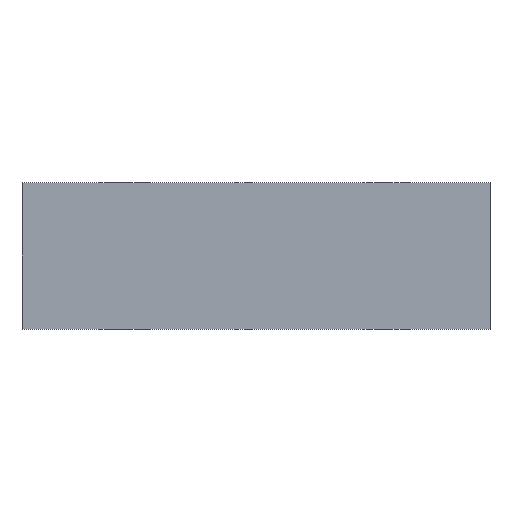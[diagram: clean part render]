
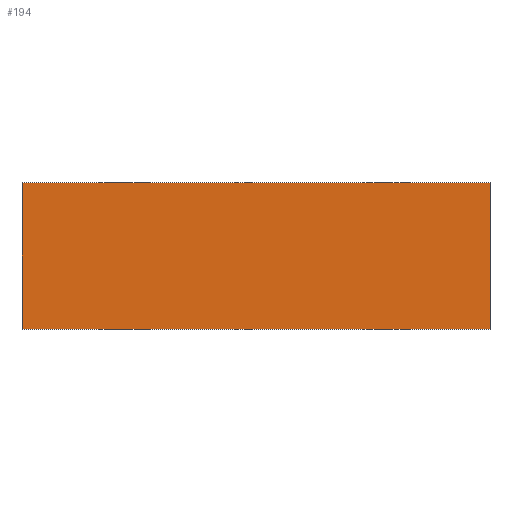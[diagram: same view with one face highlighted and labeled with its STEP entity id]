
A CAD part, front view. The second image highlights one B-rep face of the part: STEP entity #194.
In plain terms, the highlighted planar face has unit normal (0, -1, 0).
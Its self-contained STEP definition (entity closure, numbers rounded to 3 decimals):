
#21 = EDGE_CURVE('',#22,#24,#26,.T.);
#22 = VERTEX_POINT('',#23);
#23 = CARTESIAN_POINT('',(-16.,-15.,0.));
#24 = VERTEX_POINT('',#25);
#25 = CARTESIAN_POINT('',(-16.,-15.,10.));
#26 = SURFACE_CURVE('',#27,(#31,#43),.PCURVE_S1.);
#27 = LINE('',#28,#29);
#28 = CARTESIAN_POINT('',(-16.,-15.,-10.));
#29 = VECTOR('',#30,1.);
#30 = DIRECTION('',(0.,0.,1.));
#31 = PCURVE('',#32,#37);
#32 = PLANE('',#33);
#33 = AXIS2_PLACEMENT_3D('',#34,#35,#36);
#34 = CARTESIAN_POINT('',(-16.,-15.,-10.));
#35 = DIRECTION('',(1.,0.,0.));
#36 = DIRECTION('',(0.,0.,1.));
#37 = DEFINITIONAL_REPRESENTATION('',(#38),#42);
#38 = LINE('',#39,#40);
#39 = CARTESIAN_POINT('',(0.,0.));
#40 = VECTOR('',#41,1.);
#41 = DIRECTION('',(1.,0.));
#42 = ( GEOMETRIC_REPRESENTATION_CONTEXT(2) 
PARAMETRIC_REPRESENTATION_CONTEXT() REPRESENTATION_CONTEXT('2D SPACE',''
  ) );
#43 = PCURVE('',#44,#49);
#44 = PLANE('',#45);
#45 = AXIS2_PLACEMENT_3D('',#46,#47,#48);
#46 = CARTESIAN_POINT('',(-16.,-15.,-10.));
#47 = DIRECTION('',(0.,1.,0.));
#48 = DIRECTION('',(0.,0.,1.));
#49 = DEFINITIONAL_REPRESENTATION('',(#50),#54);
#50 = LINE('',#51,#52);
#51 = CARTESIAN_POINT('',(0.,0.));
#52 = VECTOR('',#53,1.);
#53 = DIRECTION('',(1.,0.));
#54 = ( GEOMETRIC_REPRESENTATION_CONTEXT(2) 
PARAMETRIC_REPRESENTATION_CONTEXT() REPRESENTATION_CONTEXT('2D SPACE',''
  ) );
#71 = PLANE('',#72);
#72 = AXIS2_PLACEMENT_3D('',#73,#74,#75);
#73 = CARTESIAN_POINT('',(-20.,-20.,0.));
#74 = DIRECTION('',(0.,0.,1.));
#75 = DIRECTION('',(1.,0.,0.));
#183 = PLANE('',#184);
#184 = AXIS2_PLACEMENT_3D('',#185,#186,#187);
#185 = CARTESIAN_POINT('',(-16.,-15.,10.));
#186 = DIRECTION('',(0.,0.,1.));
#187 = DIRECTION('',(1.,0.,0.));
#194 = ADVANCED_FACE('',(#195),#44,.F.);
#195 = FACE_BOUND('',#196,.F.);
#196 = EDGE_LOOP('',(#197,#227,#246,#247));
#197 = ORIENTED_EDGE('',*,*,#198,.F.);
#198 = EDGE_CURVE('',#199,#201,#203,.T.);
#199 = VERTEX_POINT('',#200);
#200 = CARTESIAN_POINT('',(16.,-15.,0.));
#201 = VERTEX_POINT('',#202);
#202 = CARTESIAN_POINT('',(16.,-15.,10.));
#203 = SURFACE_CURVE('',#204,(#208,#215),.PCURVE_S1.);
#204 = LINE('',#205,#206);
#205 = CARTESIAN_POINT('',(16.,-15.,-10.));
#206 = VECTOR('',#207,1.);
#207 = DIRECTION('',(0.,0.,1.));
#208 = PCURVE('',#44,#209);
#209 = DEFINITIONAL_REPRESENTATION('',(#210),#214);
#210 = LINE('',#211,#212);
#211 = CARTESIAN_POINT('',(0.,32.));
#212 = VECTOR('',#213,1.);
#213 = DIRECTION('',(1.,0.));
#214 = ( GEOMETRIC_REPRESENTATION_CONTEXT(2) 
PARAMETRIC_REPRESENTATION_CONTEXT() REPRESENTATION_CONTEXT('2D SPACE',''
  ) );
#215 = PCURVE('',#216,#221);
#216 = PLANE('',#217);
#217 = AXIS2_PLACEMENT_3D('',#218,#219,#220);
#218 = CARTESIAN_POINT('',(16.,-15.,-10.));
#219 = DIRECTION('',(1.,0.,0.));
#220 = DIRECTION('',(0.,0.,1.));
#221 = DEFINITIONAL_REPRESENTATION('',(#222),#226);
#222 = LINE('',#223,#224);
#223 = CARTESIAN_POINT('',(0.,0.));
#224 = VECTOR('',#225,1.);
#225 = DIRECTION('',(1.,0.));
#226 = ( GEOMETRIC_REPRESENTATION_CONTEXT(2) 
PARAMETRIC_REPRESENTATION_CONTEXT() REPRESENTATION_CONTEXT('2D SPACE',''
  ) );
#227 = ORIENTED_EDGE('',*,*,#228,.F.);
#228 = EDGE_CURVE('',#22,#199,#229,.T.);
#229 = SURFACE_CURVE('',#230,(#234,#240),.PCURVE_S1.);
#230 = LINE('',#231,#232);
#231 = CARTESIAN_POINT('',(-18.,-15.,0.));
#232 = VECTOR('',#233,1.);
#233 = DIRECTION('',(1.,0.,0.));
#234 = PCURVE('',#44,#235);
#235 = DEFINITIONAL_REPRESENTATION('',(#236),#239);
#236 = B_SPLINE_CURVE_WITH_KNOTS('',1,(#237,#238),.UNSPECIFIED.,.F.,.F.,
  (2,2),(2.,34.),.PIECEWISE_BEZIER_KNOTS.);
#237 = CARTESIAN_POINT('',(10.,0.));
#238 = CARTESIAN_POINT('',(10.,32.));
#239 = ( GEOMETRIC_REPRESENTATION_CONTEXT(2) 
PARAMETRIC_REPRESENTATION_CONTEXT() REPRESENTATION_CONTEXT('2D SPACE',''
  ) );
#240 = PCURVE('',#71,#241);
#241 = DEFINITIONAL_REPRESENTATION('',(#242),#245);
#242 = B_SPLINE_CURVE_WITH_KNOTS('',1,(#243,#244),.UNSPECIFIED.,.F.,.F.,
  (2,2),(2.,34.),.PIECEWISE_BEZIER_KNOTS.);
#243 = CARTESIAN_POINT('',(4.,5.));
#244 = CARTESIAN_POINT('',(36.,5.));
#245 = ( GEOMETRIC_REPRESENTATION_CONTEXT(2) 
PARAMETRIC_REPRESENTATION_CONTEXT() REPRESENTATION_CONTEXT('2D SPACE',''
  ) );
#246 = ORIENTED_EDGE('',*,*,#21,.T.);
#247 = ORIENTED_EDGE('',*,*,#248,.T.);
#248 = EDGE_CURVE('',#24,#201,#249,.T.);
#249 = SURFACE_CURVE('',#250,(#254,#261),.PCURVE_S1.);
#250 = LINE('',#251,#252);
#251 = CARTESIAN_POINT('',(-16.,-15.,10.));
#252 = VECTOR('',#253,1.);
#253 = DIRECTION('',(1.,0.,0.));
#254 = PCURVE('',#44,#255);
#255 = DEFINITIONAL_REPRESENTATION('',(#256),#260);
#256 = LINE('',#257,#258);
#257 = CARTESIAN_POINT('',(20.,0.));
#258 = VECTOR('',#259,1.);
#259 = DIRECTION('',(0.,1.));
#260 = ( GEOMETRIC_REPRESENTATION_CONTEXT(2) 
PARAMETRIC_REPRESENTATION_CONTEXT() REPRESENTATION_CONTEXT('2D SPACE',''
  ) );
#261 = PCURVE('',#183,#262);
#262 = DEFINITIONAL_REPRESENTATION('',(#263),#267);
#263 = LINE('',#264,#265);
#264 = CARTESIAN_POINT('',(0.,0.));
#265 = VECTOR('',#266,1.);
#266 = DIRECTION('',(1.,0.));
#267 = ( GEOMETRIC_REPRESENTATION_CONTEXT(2) 
PARAMETRIC_REPRESENTATION_CONTEXT() REPRESENTATION_CONTEXT('2D SPACE',''
  ) );
